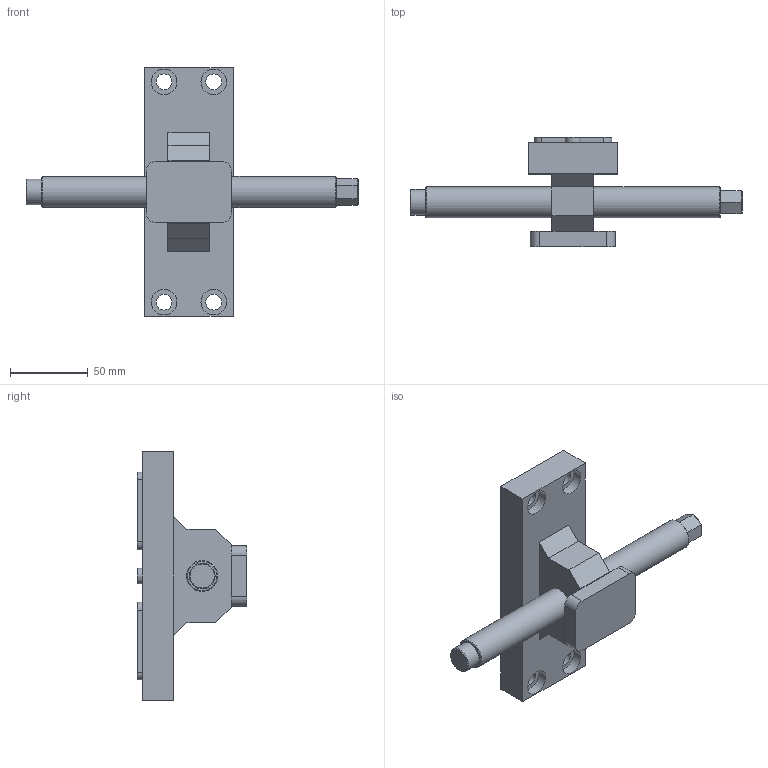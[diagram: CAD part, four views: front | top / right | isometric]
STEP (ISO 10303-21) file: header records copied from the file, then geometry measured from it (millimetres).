
FILE_DESCRIPTION (( 'STEP AP214' ), '1' );
FILE_NAME ('49100-TG125.STEP', '2020-03-30T12:42:55', ( '' ), ( '' ), 'SwSTEP 2.0', 'SolidWorks 2019', '' );
FILE_SCHEMA (( 'AUTOMOTIVE_DESIGN' ));
Length unit declared in the file: millimetre
Products named in the file (1): 49100-TG125
Bounding box: 214 x 70.5 x 160 mm (x, y, z)
Volume: 313683.6 mm3; surface area: 51843.7 mm2
Topology: 1 solids, 1 shells, 89 faces, 209 edges, 135 vertices
Faces by surface type: plane 65, cylinder 21, cone 3
Full cylindrical faces by diameter (mm): 10.2 x4, 16.5 x5, 20 x2
Entity records: 2857 total; most frequent: DIRECTION 414, CARTESIAN_POINT 408, ORIENTED_EDGE 378, EDGE_CURVE 189, VECTOR 144, LINE 144, AXIS2_PLACEMENT_3D 135, VERTEX_POINT 129
